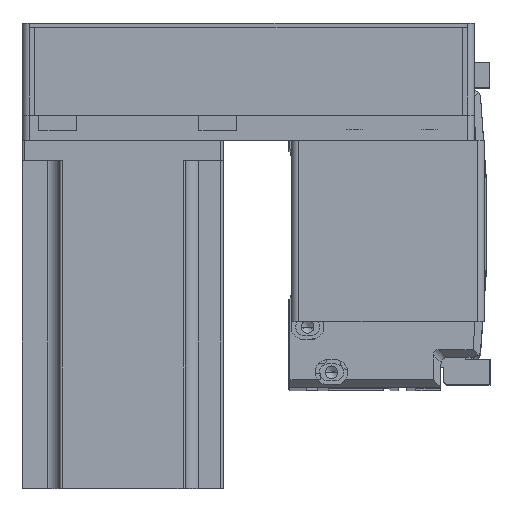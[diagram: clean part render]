
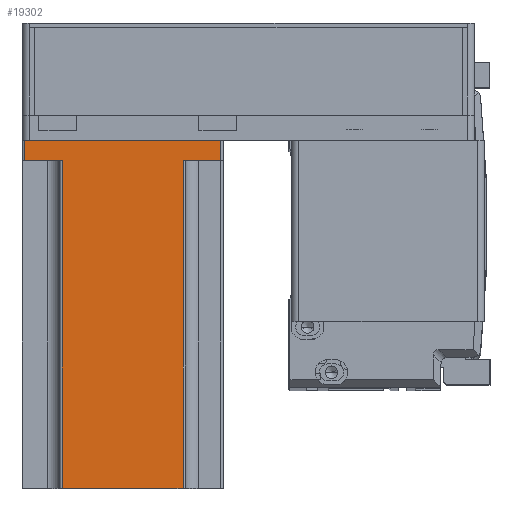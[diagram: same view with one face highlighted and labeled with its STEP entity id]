
A CAD part, top view. The second image highlights one B-rep face of the part: STEP entity #19302.
In plain terms, the highlighted planar face has unit normal (0, 0, 1) as drawn and (0, 1, 0) by its records, which use the part's own axes.
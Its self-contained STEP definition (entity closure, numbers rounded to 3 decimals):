
#407 = CARTESIAN_POINT ( 'NONE',  ( 40., 40., 138.3 ) ) ;
#694 = VECTOR ( 'NONE', #38300, 1000. ) ;
#1479 = VECTOR ( 'NONE', #4488, 1000. ) ;
#1795 = EDGE_CURVE ( 'NONE', #21180, #28975, #2083, .T. ) ;
#1934 = ORIENTED_EDGE ( 'NONE', *, *, #31273, .T. ) ;
#2083 = LINE ( 'NONE', #6739, #30239 ) ;
#2334 = LINE ( 'NONE', #21211, #19599 ) ;
#2830 = DIRECTION ( 'NONE',  ( -1., 0., 0. ) ) ;
#3460 = VERTEX_POINT ( 'NONE', #8284 ) ;
#4108 = DIRECTION ( 'NONE',  ( 1., 0., 0. ) ) ;
#4488 = DIRECTION ( 'NONE',  ( 1., 0., 0. ) ) ;
#4838 = EDGE_CURVE ( 'NONE', #23307, #18423, #28956, .T. ) ;
#6739 = CARTESIAN_POINT ( 'NONE',  ( -24., 40., 138.3 ) ) ;
#7565 = EDGE_LOOP ( 'NONE', ( #24147, #37971, #43878, #40123, #26974, #30217, #9961, #1934 ) ) ;
#7681 = CARTESIAN_POINT ( 'NONE',  ( 39., 40., 0. ) ) ;
#7885 = LINE ( 'NONE', #12246, #37141 ) ;
#8284 = CARTESIAN_POINT ( 'NONE',  ( -39., 40., 8. ) ) ;
#9961 = ORIENTED_EDGE ( 'NONE', *, *, #4838, .T. ) ;
#10190 = CARTESIAN_POINT ( 'NONE',  ( 40., 40., 0. ) ) ;
#10386 = DIRECTION ( 'NONE',  ( 0., 0., 1. ) ) ;
#10893 = DIRECTION ( 'NONE',  ( -1., 0., 0. ) ) ;
#11222 = LINE ( 'NONE', #33855, #1479 ) ;
#12246 = CARTESIAN_POINT ( 'NONE',  ( 24., 40., 138.3 ) ) ;
#12649 = LINE ( 'NONE', #14633, #41895 ) ;
#12659 = CARTESIAN_POINT ( 'NONE',  ( 25., 40., 8. ) ) ;
#12819 = VERTEX_POINT ( 'NONE', #24459 ) ;
#14633 = CARTESIAN_POINT ( 'NONE',  ( 40., 40., 138.3 ) ) ;
#17390 = CARTESIAN_POINT ( 'NONE',  ( -24., 40., 8. ) ) ;
#18423 = VERTEX_POINT ( 'NONE', #45576 ) ;
#19302 = ADVANCED_FACE ( 'NONE', ( #27640 ), #33333, .F. ) ;
#19599 = VECTOR ( 'NONE', #35784, 1000. ) ;
#19671 = DIRECTION ( 'NONE',  ( 0., 0., -1. ) ) ;
#20548 = CARTESIAN_POINT ( 'NONE',  ( -24., 40., 138.3 ) ) ;
#21180 = VERTEX_POINT ( 'NONE', #17390 ) ;
#21211 = CARTESIAN_POINT ( 'NONE',  ( -39., 40., 138.3 ) ) ;
#23307 = VERTEX_POINT ( 'NONE', #7681 ) ;
#23990 = VERTEX_POINT ( 'NONE', #34097 ) ;
#24147 = ORIENTED_EDGE ( 'NONE', *, *, #37975, .T. ) ;
#24459 = CARTESIAN_POINT ( 'NONE',  ( 39., 40., 8. ) ) ;
#25569 = EDGE_CURVE ( 'NONE', #12819, #23990, #46027, .T. ) ;
#26106 = DIRECTION ( 'NONE',  ( 0., -1., 0. ) ) ;
#26156 = VERTEX_POINT ( 'NONE', #27841 ) ;
#26974 = ORIENTED_EDGE ( 'NONE', *, *, #25569, .F. ) ;
#27640 = FACE_OUTER_BOUND ( 'NONE', #7565, .T. ) ;
#27841 = CARTESIAN_POINT ( 'NONE',  ( 24., 40., 138.3 ) ) ;
#28239 = EDGE_CURVE ( 'NONE', #26156, #23990, #7885, .T. ) ;
#28956 = LINE ( 'NONE', #10190, #46154 ) ;
#28975 = VERTEX_POINT ( 'NONE', #20548 ) ;
#29625 = EDGE_CURVE ( 'NONE', #12819, #23307, #47344, .T. ) ;
#30217 = ORIENTED_EDGE ( 'NONE', *, *, #29625, .T. ) ;
#30239 = VECTOR ( 'NONE', #10386, 1000. ) ;
#31273 = EDGE_CURVE ( 'NONE', #18423, #3460, #2334, .T. ) ;
#33006 = DIRECTION ( 'NONE',  ( 0., 0., -1. ) ) ;
#33333 = PLANE ( 'NONE',  #37686 ) ;
#33855 = CARTESIAN_POINT ( 'NONE',  ( -25., 40., 8. ) ) ;
#34097 = CARTESIAN_POINT ( 'NONE',  ( 24., 40., 8. ) ) ;
#35784 = DIRECTION ( 'NONE',  ( 0., 0., 1. ) ) ;
#37141 = VECTOR ( 'NONE', #19671, 1000. ) ;
#37575 = VECTOR ( 'NONE', #33006, 1000. ) ;
#37686 = AXIS2_PLACEMENT_3D ( 'NONE', #407, #26106, #4108 ) ;
#37971 = ORIENTED_EDGE ( 'NONE', *, *, #1795, .T. ) ;
#37975 = EDGE_CURVE ( 'NONE', #3460, #21180, #11222, .T. ) ;
#38300 = DIRECTION ( 'NONE',  ( -1., 0., 0. ) ) ;
#40123 = ORIENTED_EDGE ( 'NONE', *, *, #28239, .T. ) ;
#41895 = VECTOR ( 'NONE', #10893, 1000. ) ;
#43878 = ORIENTED_EDGE ( 'NONE', *, *, #45372, .F. ) ;
#45372 = EDGE_CURVE ( 'NONE', #26156, #28975, #12649, .T. ) ;
#45576 = CARTESIAN_POINT ( 'NONE',  ( -39., 40., 0. ) ) ;
#46027 = LINE ( 'NONE', #12659, #694 ) ;
#46154 = VECTOR ( 'NONE', #2830, 1000. ) ;
#47344 = LINE ( 'NONE', #47574, #37575 ) ;
#47574 = CARTESIAN_POINT ( 'NONE',  ( 39., 40., 138.3 ) ) ;
